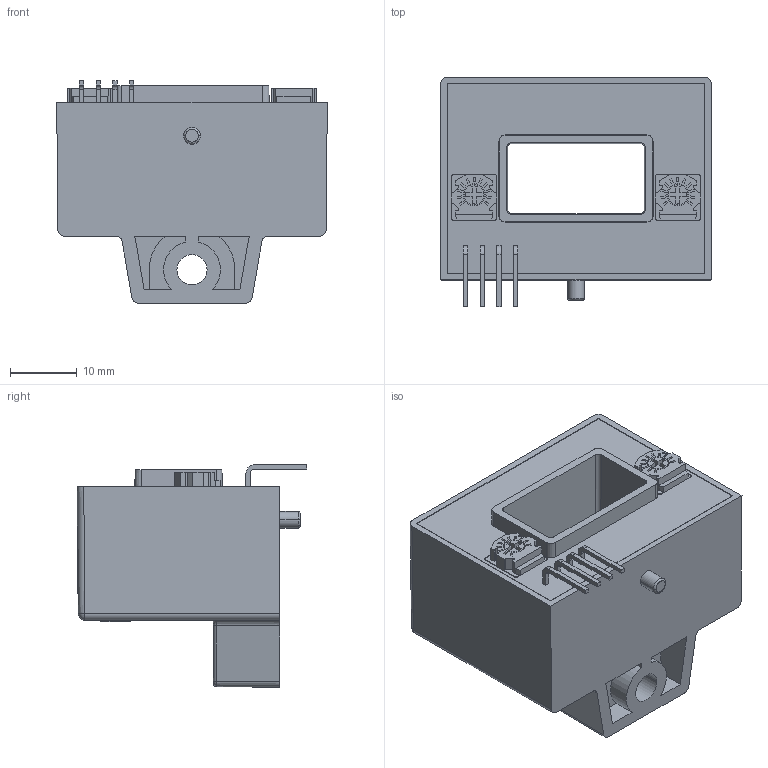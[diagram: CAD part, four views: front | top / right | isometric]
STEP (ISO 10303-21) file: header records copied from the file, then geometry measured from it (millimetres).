
FILE_DESCRIPTION(('Creo Elements/Direct Modeling STEP Export'),'2;1');
FILE_NAME('HAS 50-P black box.stp','2013-12-16T11:25:45',(''),(''),'Creo Elements/Direct Modeling STEP processor for AP214 (Solid Model)','Creo Elements/Direct Modeling 17.0C 05-Feb-2011 (C) Parametric Technology GmbH','');
FILE_SCHEMA(('AUTOMOTIVE_DESIGN { 1 0 10303 214 1 1 1 1 }'));
Length unit declared in the file: millimetre
Products named in the file (2): HAS-P_Blackbox
Assembly tree (1 placements, depth 2):
  HAS-P_Blackbox
    HAS-P_Blackbox
Bounding box: 40.4 x 34.33 x 33.22 mm (x, y, z)
Volume: 21225.7 mm3; surface area: 7831.3 mm2
Topology: 1 solids, 1 shells, 512 faces, 1327 edges, 878 vertices
Faces by surface type: plane 412, cylinder 70, cone 12, torus 8, extrusion 5, sphere 4, bspline 1
Entity records: 16020 total; most frequent: CARTESIAN_POINT 3160, ORIENTED_EDGE 2650, DIRECTION 2416, EDGE_CURVE 1325, VECTOR 1122, LINE 1117, VERTEX_POINT 878, AXIS2_PLACEMENT_3D 647
